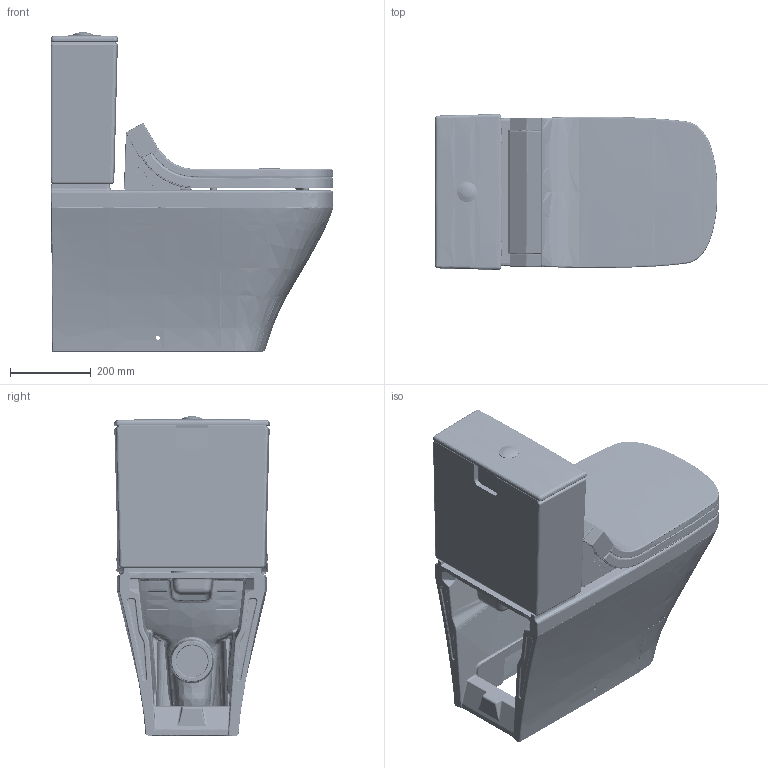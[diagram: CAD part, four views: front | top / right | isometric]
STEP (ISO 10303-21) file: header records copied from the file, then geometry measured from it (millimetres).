
FILE_DESCRIPTION((''),'2;1');
FILE_NAME('C:\Users\Administrator\Desktop\NEWS 2013\DuraStyle Keramik\3d\stp\215659_1_610200.stp','2013-05-29T15:19:44',('Administrator'),(''),'Autodesk Inventor 2011','Autodesk Inventor 2011','');
FILE_SCHEMA(('CONFIG_CONTROL_DESIGN'));
Length unit declared in the file: millimetre
Products named in the file (18): 215659_1_610200; 215659; 093510; SPK Taster Durastyle; 610200; CASE-ASSY_ASM; BODY-CASE; DECORATIVE-COVER; 1F219-01-01; SEAT_ASM; 1F221-A0-01; 1F221-B0-01; 1F218-B0-01; INFRARED-LEFT; BUTTON-MEMBRANE; HINGE-COVER-L; HINGE-COVER-R; LID-CUSHION
Assembly tree (21 placements, depth 5):
  215659_1_610200
    215659
    093510
    SPK Taster Durastyle
    610200
      CASE-ASSY_ASM
        BODY-CASE
        DECORATIVE-COVER
        1F219-01-01
        SEAT_ASM
          1F221-A0-01
          1F221-B0-01
          1F218-B0-01
        INFRARED-LEFT
        BUTTON-MEMBRANE
        HINGE-COVER-L
        HINGE-COVER-R
        LID-CUSHION  x2
        1F218-B0-01  x3
Bounding box: 700.82 x 387.03 x 792.49 mm (x, y, z)
Volume: 37592432.3 mm3; surface area: 4134133.3 mm2
Topology: 22 solids, 25 shells, 7812 faces, 19655 edges, 11942 vertices
Faces by surface type: bspline 2999, plane 2395, cylinder 1367, torus 495, cone 419, sphere 137
Full cylindrical faces by diameter (mm): 2 x1, 2.4 x2, 2.5 x1, 2.6 x3, 2.9 x3, 3 x1, 3.2 x3, 3.8 x4, 4 x6, 4.2 x2, 4.5 x1, 5 x4, 6 x2, 7.5 x8, 8 x11, 9 x2, 9.6 x4, 10 x7, 14.5 x2, 15 x2, 15.2 x2, 18 x1, 20 x2, 28.2 x1, 40 x2, 50 x1, 63 x1
Entity records: 527408 total; most frequent: CARTESIAN_POINT 364385, ORIENTED_EDGE 36226, DIRECTION 26360, EDGE_CURVE 18113, VERTEX_POINT 11175, AXIS2_PLACEMENT_3D 9660, EDGE_LOOP 7666, FACE_OUTER_BOUND 7267
